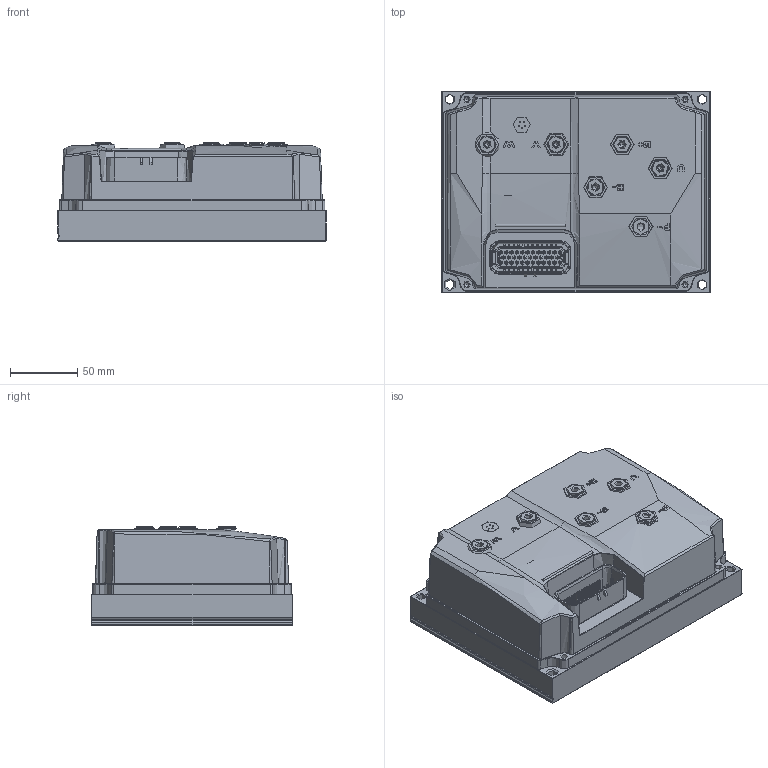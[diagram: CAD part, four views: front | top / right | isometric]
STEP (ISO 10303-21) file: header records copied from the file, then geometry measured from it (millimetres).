
FILE_DESCRIPTION(/* description */ (''),/* implementation_level */ '2;1');
FILE_NAME(/* name */ 'C:\1SSDE Vault\CAD\GVI\GVI_Frame_C\GVI_Frame_C.stp',/* time_stamp */ '2019-09-12T16:02:51+01:00',/* author */ ('SC084691'),/* organization */ (''),/* preprocessor_version */ 'ST-DEVELOPER v18',/* originating_system */ 'Autodesk Inventor 2020',/* authorisation */ '');
FILE_SCHEMA (('CONFIG_CONTROL_DESIGN'));
Products named in the file (1): GVI_Frame_C
Bounding box: 200 x 150 x 73.37 mm (x, y, z)
Volume: 855290.6 mm3; surface area: 237107 mm2
Topology: 9 solids, 9 shells, 4442 faces, 11608 edges, 7433 vertices
Faces by surface type: plane 1800, bspline 1081, cone 623, cylinder 537, torus 301, sphere 100
Full cylindrical faces by diameter (mm): 1.3 x70, 2.5 x9, 2.75 x5, 3 x3, 3.7 x4, 4.2 x1, 5 x7, 5.5 x1, 6.6 x3, 6.8 x1, 13 x1
Entity records: 193609 total; most frequent: CARTESIAN_POINT 89091, ORIENTED_EDGE 22970, DIRECTION 20312, EDGE_CURVE 11485, AXIS2_PLACEMENT_3D 7483, VERTEX_POINT 7433, LINE 5346, VECTOR 5346
